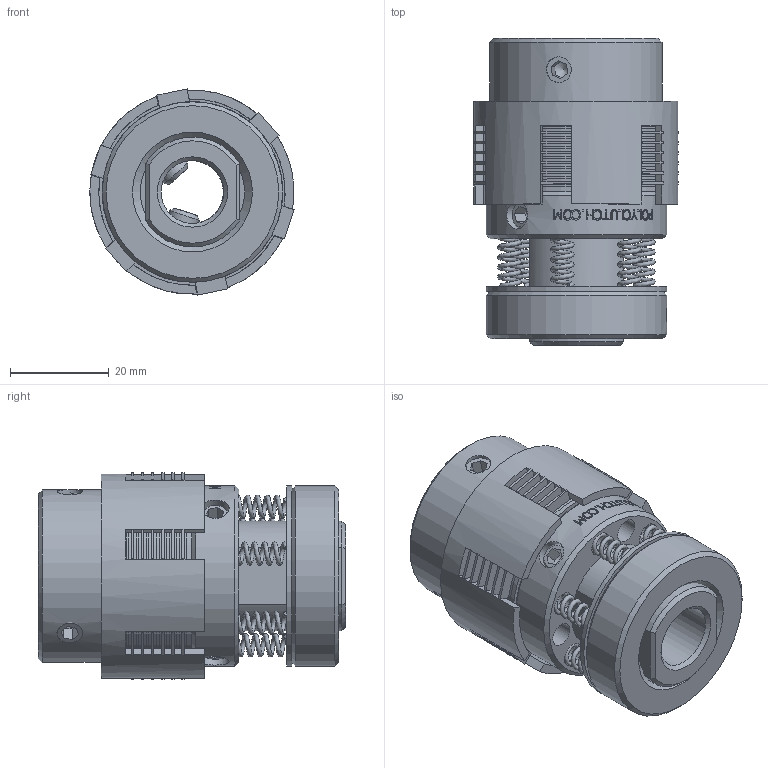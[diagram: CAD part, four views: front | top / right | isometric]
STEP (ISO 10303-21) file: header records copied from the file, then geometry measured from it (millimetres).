
FILE_DESCRIPTION((''),'2;1');
FILE_NAME('P:\Public\3-D CLUTCH ASSEMBLY FILES\EAS32\EAS32.stp','2013-01-21T14:22:04',('TodLob'),(''),'Autodesk Inventor 2011','Autodesk Inventor 2011','');
FILE_SCHEMA(('AUTOMOTIVE_DESIGN { 1 0 10303 214 1 1 1 1 }'));
Length unit declared in the file: inch
Products named in the file (14): EAS32; S3211-8; S3217-6A; S3238; S3221; E3213; S3215; S3219; S3214A; S3240; S3239; E3209S-8; Hexagon Socket Set Screw - Flat Point - Inch 1_4-28 UNF x 0; Type A - Hexagon Socket Set Screw - Cup Point - Inch 1/4-28 UNF x 0.38
Assembly tree (41 placements, depth 2):
  EAS32
    S3211-8
    S3217-6A
    S3238
    S3221  x12
    E3213  x6
    S3215  x6
    S3219
    S3214A  x6
    S3240
    S3239
    E3209S-8
    Hexagon Socket Set Screw - Flat Point - Inch 1_4-28 UNF x 0  x2
    Type A - Hexagon Socket Set Screw - Cup Point - Inch 1/4-28 UNF x 0.38  x2
Bounding box: 41.3 x 62.1 x 41.69 mm (x, y, z)
Volume: 48710.2 mm3; surface area: 63404.9 mm2
Topology: 41 solids, 41 shells, 1037 faces, 2459 edges, 1605 vertices
Faces by surface type: plane 653, cylinder 175, bspline 162, cone 28, sphere 17, torus 2
Full cylindrical faces by diameter (mm): 1.168 x36, 3.454 x1, 4.877 x9, 5.156 x2, 5.613 x2, 6.35 x4, 12.7 x2, 19.101 x1, 21.082 x1, 22.225 x1, 22.327 x12, 23.8 x6, 31.75 x1, 34.925 x1, 36.5 x21, 36.513 x1, 37.694 x1, 41.275 x1
Entity records: 50375 total; most frequent: CARTESIAN_POINT 32870, ORIENTED_EDGE 3346, DIRECTION 3307, EDGE_CURVE 1673, AXIS2_PLACEMENT_3D 1188, VERTEX_POINT 1168, EDGE_LOOP 1071, VECTOR 931
